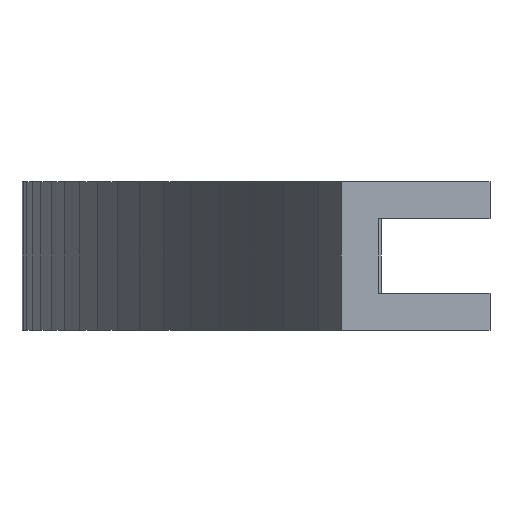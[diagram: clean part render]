
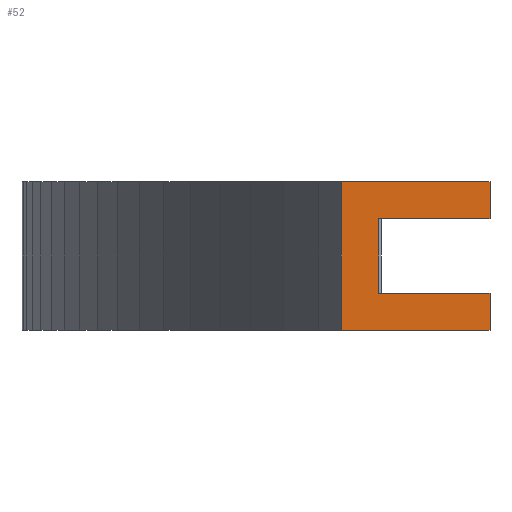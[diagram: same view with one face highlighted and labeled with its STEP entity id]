
A CAD part, front view. The second image highlights one B-rep face of the part: STEP entity #52.
In plain terms, the highlighted planar face has unit normal (0, -1, 0).
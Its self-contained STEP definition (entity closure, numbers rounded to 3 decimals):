
#52=ADVANCED_FACE('',(#211),#212,.T.);
#211=FACE_OUTER_BOUND('',#524,.T.);
#212=PLANE('',#525);
#524=EDGE_LOOP('',(#842,#843,#844,#845,#846,#847,#848,#849));
#525=AXIS2_PLACEMENT_3D('',#850,#851,#852);
#842=ORIENTED_EDGE('',*,*,#2232,.T.);
#843=ORIENTED_EDGE('',*,*,#2233,.F.);
#844=ORIENTED_EDGE('',*,*,#2234,.T.);
#845=ORIENTED_EDGE('',*,*,#2230,.T.);
#846=ORIENTED_EDGE('',*,*,#2235,.T.);
#847=ORIENTED_EDGE('',*,*,#2236,.F.);
#848=ORIENTED_EDGE('',*,*,#2237,.T.);
#849=ORIENTED_EDGE('',*,*,#2238,.T.);
#850=CARTESIAN_POINT('',(-270.0,-360.2,-135.0));
#851=DIRECTION('',(-0.0,-1.0,-0.0));
#852=DIRECTION('',(0.0,0.0,-1.0));
#2230=EDGE_CURVE('',#2695,#2693,#2696,.T.);
#2232=EDGE_CURVE('',#2698,#2699,#2700,.T.);
#2233=EDGE_CURVE('',#2701,#2699,#2702,.T.);
#2234=EDGE_CURVE('',#2701,#2695,#2703,.T.);
#2235=EDGE_CURVE('',#2693,#2704,#2705,.T.);
#2236=EDGE_CURVE('',#2706,#2704,#2707,.T.);
#2237=EDGE_CURVE('',#2706,#2708,#2709,.T.);
#2238=EDGE_CURVE('',#2708,#2698,#2710,.T.);
#2693=VERTEX_POINT('',#3464);
#2695=VERTEX_POINT('',#3467);
#2696=LINE('',#3468,#3469);
#2698=VERTEX_POINT('',#3472);
#2699=VERTEX_POINT('',#3473);
#2700=LINE('',#3474,#3475);
#2701=VERTEX_POINT('',#3476);
#2702=LINE('',#3477,#3478);
#2703=LINE('',#3479,#3480);
#2704=VERTEX_POINT('',#3481);
#2705=LINE('',#3482,#3483);
#2706=VERTEX_POINT('',#3484);
#2707=LINE('',#3485,#3486);
#2708=VERTEX_POINT('',#3487);
#2709=LINE('',#3488,#3489);
#2710=LINE('',#3490,#3491);
#3464=CARTESIAN_POINT('',(-280.0,-360.2,-145.0));
#3467=CARTESIAN_POINT('',(-280.0,-360.2,-125.0));
#3468=CARTESIAN_POINT('',(-280.0,-360.2,-135.0));
#3469=VECTOR('',#4694,1.0);
#3472=CARTESIAN_POINT('',(-275.0,-360.2,-130.0));
#3473=CARTESIAN_POINT('',(-260.0,-360.2,-130.0));
#3474=CARTESIAN_POINT('',(-267.5,-360.2,-130.0));
#3475=VECTOR('',#4696,1.0);
#3476=CARTESIAN_POINT('',(-260.0,-360.2,-125.0));
#3477=CARTESIAN_POINT('',(-260.0,-360.2,-135.0));
#3478=VECTOR('',#4697,1.0);
#3479=CARTESIAN_POINT('',(-270.0,-360.2,-125.0));
#3480=VECTOR('',#4698,1.0);
#3481=CARTESIAN_POINT('',(-260.0,-360.2,-145.0));
#3482=CARTESIAN_POINT('',(-270.0,-360.2,-145.0));
#3483=VECTOR('',#4699,1.0);
#3484=CARTESIAN_POINT('',(-260.0,-360.2,-140.0));
#3485=CARTESIAN_POINT('',(-260.0,-360.2,-135.0));
#3486=VECTOR('',#4700,1.0);
#3487=CARTESIAN_POINT('',(-275.0,-360.2,-140.0));
#3488=CARTESIAN_POINT('',(-267.5,-360.2,-140.0));
#3489=VECTOR('',#4701,1.0);
#3490=CARTESIAN_POINT('',(-275.0,-360.2,-135.0));
#3491=VECTOR('',#4702,1.0);
#4694=DIRECTION('',(0.0,0.0,-1.0));
#4696=DIRECTION('',(1.0,0.0,0.0));
#4697=DIRECTION('',(0.0,0.0,-1.0));
#4698=DIRECTION('',(-1.0,0.0,0.0));
#4699=DIRECTION('',(1.0,0.0,0.0));
#4700=DIRECTION('',(0.0,0.0,-1.0));
#4701=DIRECTION('',(-1.0,0.0,0.0));
#4702=DIRECTION('',(0.0,0.0,1.0));
